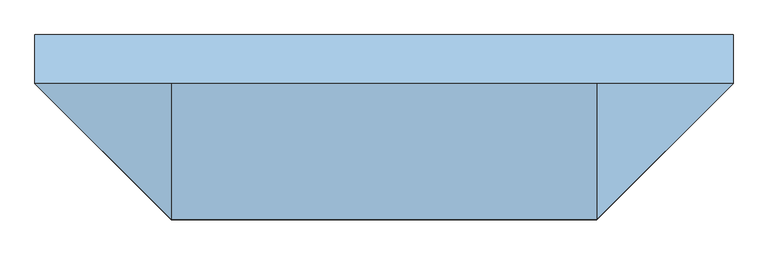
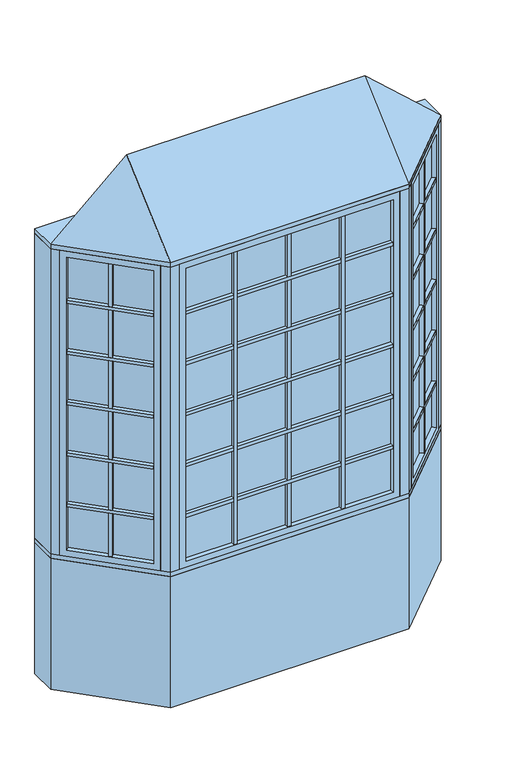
"""IFC4 building model written with IfcOpenShell, lengths in millimetres: window geometry, Pollard_Windows_Tudor Casement Bows and Bays : AML-BAY 45 AFR0518-12-500_GC."""

from ifc_helpers import new_model, si_unit, frame, origin, origin_with_axes, place, context, project, spatial, polyline, outline, extrude, faceted_brep, source, transform, mapped, element, save


def window_77bf9d07(model_context):
    return source(origin(), model_context, "Body", "SolidModel", [
        extrude(outline(polyline([(722.8614193, -437.1108753), (707.3050701, -421.5545261), (1015.116171, -113.7434252), (1030.6725202, -129.2997743), (722.8614193, -437.1108753)])), frame((0.0, 0.0, 1690.998), z_axis=(0.0, 0.0, 1.0), x_axis=(1.0, 0.0, 0.0)), (0.0, 0.0, 1.0), 18.0),
        extrude(outline(polyline([(703.7129677, -417.9624236), (688.1566185, -402.4060744), (995.9677194, -94.5949735), (1011.5240686, -110.1513227), (703.7129677, -417.9624236)])), frame((0.0, 0.0, 1690.998), z_axis=(0.0, 0.0, 1.0), x_axis=(1.0, 0.0, 0.0)), (0.0, 0.0, 1.0), 18.0),
        extrude(outline(polyline([(722.8614193, -437.1108753), (707.3050701, -421.5545261), (1015.116171, -113.7434252), (1030.6725202, -129.2997743), (722.8614193, -437.1108753)])), frame((0.0, 0.0, 1090.998), z_axis=(0.0, 0.0, 1.0), x_axis=(1.0, 0.0, 0.0)), (0.0, 0.0, 1.0), 18.0),
        extrude(outline(polyline([(703.7129677, -417.9624236), (688.1566185, -402.4060744), (995.9677194, -94.5949735), (1011.5240686, -110.1513227), (703.7129677, -417.9624236)])), frame((0.0, 0.0, 1090.998), z_axis=(0.0, 0.0, 1.0), x_axis=(1.0, 0.0, 0.0)), (0.0, 0.0, 1.0), 18.0),
        extrude(outline(polyline([(722.8614193, -437.1108753), (707.3050701, -421.5545261), (1015.116171, -113.7434252), (1030.6725202, -129.2997743), (722.8614193, -437.1108753)])), frame((0.0, 0.0, 1390.998), z_axis=(0.0, 0.0, 1.0), x_axis=(1.0, 0.0, 0.0)), (0.0, 0.0, 1.0), 18.0),
        extrude(outline(polyline([(703.7129677, -417.9624236), (688.1566185, -402.4060744), (995.9677194, -94.5949735), (1011.5240686, -110.1513227), (703.7129677, -417.9624236)])), frame((0.0, 0.0, 1390.998), z_axis=(0.0, 0.0, 1.0), x_axis=(1.0, 0.0, 0.0)), (0.0, 0.0, 1.0), 18.0),
        extrude(outline(polyline([(722.8614193, -437.1108753), (707.3050701, -421.5545261), (1015.116171, -113.7434252), (1030.6725202, -129.2997743), (722.8614193, -437.1108753)])), frame((0.0, 0.0, 1990.998), z_axis=(0.0, 0.0, 1.0), x_axis=(1.0, 0.0, 0.0)), (0.0, 0.0, 1.0), 18.0),
        extrude(outline(polyline([(703.7129677, -417.9624236), (688.1566185, -402.4060744), (995.9677194, -94.5949735), (1011.5240686, -110.1513227), (703.7129677, -417.9624236)])), frame((0.0, 0.0, 1990.998), z_axis=(0.0, 0.0, 1.0), x_axis=(1.0, 0.0, 0.0)), (0.0, 0.0, 1.0), 18.0),
        extrude(outline(polyline([(722.8614193, -437.1108753), (707.3050701, -421.5545261), (1015.116171, -113.7434252), (1030.6725202, -129.2997743), (722.8614193, -437.1108753)])), frame((0.0, 0.0, 2290.998), z_axis=(0.0, 0.0, 1.0), x_axis=(1.0, 0.0, 0.0)), (0.0, 0.0, 1.0), 18.0),
        extrude(outline(polyline([(703.7129677, -417.9624236), (688.1566185, -402.4060744), (995.9677194, -94.5949735), (1011.5240686, -110.1513227), (703.7129677, -417.9624236)])), frame((0.0, 0.0, 2290.998), z_axis=(0.0, 0.0, 1.0), x_axis=(1.0, 0.0, 0.0)), (0.0, 0.0, 1.0), 18.0),
        extrude(outline(polyline([(867.5745816, -261.2850146), (883.1309308, -276.8413638), (870.4030087, -289.5692858), (854.8466595, -274.0129366), (867.5745816, -261.2850146)])), frame((0.0, 0.0, 835.8628), z_axis=(0.0, 0.0, 1.0), x_axis=(1.0, 0.0, 0.0)), (0.0, 0.0, 1.0), 1728.2704),
        extrude(outline(polyline([(863.9824791, -257.6929121), (851.2545571, -270.4208342), (835.6982079, -254.864485), (848.42613, -242.1365629), (863.9824791, -257.6929121)])), frame((0.0, 0.0, 835.8628), z_axis=(0.0, 0.0, 1.0), x_axis=(1.0, 0.0, 0.0)), (0.0, 0.0, 1.0), 1728.2704),
        extrude(outline(polyline([(1024.0964271, -104.763169), (698.324814, -430.5347822), (694.7327115, -426.9426797), (1020.5043247, -101.1710666), (1024.0964271, -104.763169)])), frame((0.0, 0.0, 823.1628), z_axis=(0.0, 0.0, 1.0), x_axis=(1.0, 0.0, 0.0)), (0.0, 0.0, 1.0), 1753.6704),
        faceted_brep([(1015.116171, -113.7434252, 835.8628), (1033.0766833, -131.7039374, 835.8628), (1033.0766833, -131.7039374, 2564.1332), (1015.116171, -113.7434252, 2564.1332), (1020.5043247, -101.1710666, 823.1628), (1024.0964271, -104.763169, 823.1628), (1024.0964271, -104.763169, 2576.8332), (1020.5043247, -101.1710666, 2576.8332), (993.5635563, -92.1908105, 835.8628), (1011.5240686, -110.1513227, 835.8628), (1011.5240686, -110.1513227, 2564.1332), (993.5635563, -92.1908105, 2564.1332), (1058.4369265, -106.3436941, 799.998), (1018.9237996, -66.8305672, 799.998), (1018.9237996, -66.8305672, 2599.998), (1058.4369265, -106.3436941, 2599.998), (725.2655823, -439.5150383, 2564.1332), (707.3050701, -421.5545261, 2564.1332), (698.324814, -430.5347822, 2576.8332), (694.7327115, -426.9426797, 2576.8332), (703.7129677, -417.9624236, 2564.1332), (685.7524554, -400.0019114, 2564.1332), (660.3922121, -425.3621547, 2599.998), (699.9053391, -464.8752816, 2599.998), (725.2655823, -439.5150383, 835.8628), (707.3050701, -421.5545261, 835.8628), (698.324814, -430.5347822, 823.1628), (694.7327115, -426.9426797, 823.1628), (703.7129677, -417.9624236, 835.8628), (685.7524554, -400.0019114, 835.8628), (660.3922121, -425.3621547, 799.998), (699.9053391, -464.8752816, 799.998)], [[[0, 1, 2, 3]], [[4, 5, 6, 7]], [[8, 9, 10, 11]], [[12, 13, 14, 15]], [[3, 2, 16, 17]], [[7, 6, 18, 19]], [[11, 10, 20, 21]], [[15, 14, 22, 23]], [[17, 16, 24, 25]], [[19, 18, 26, 27]], [[21, 20, 28, 29]], [[23, 22, 30, 31]], [[25, 24, 1, 0]], [[5, 26, 18, 6], [3, 17, 25, 0]], [[27, 26, 5, 4]], [[7, 19, 27, 4], [9, 28, 20, 10]], [[29, 28, 9, 8]], [[13, 30, 22, 14], [11, 21, 29, 8]], [[31, 30, 13, 12]], [[15, 23, 31, 12], [1, 24, 16, 2]]]),
        extrude(outline(polyline([(309.1927, -474.8306207), (309.1927, -496.8306207), (291.1927, -496.8306207), (291.1927, -474.8306207), (309.1927, -474.8306207)])), frame((0.0, 0.0, 835.8628), z_axis=(0.0, 0.0, 1.0), x_axis=(1.0, 0.0, 0.0)), (0.0, 0.0, 1.0), 1728.2704),
        extrude(outline(polyline([(309.1927, -469.7506207), (291.1927, -469.7506207), (291.1927, -447.7506207), (309.1927, -447.7506207), (309.1927, -469.7506207)])), frame((0.0, 0.0, 835.8628), z_axis=(0.0, 0.0, 1.0), x_axis=(1.0, 0.0, 0.0)), (0.0, 0.0, 1.0), 1728.2704),
        extrude(outline(polyline([(-291.1927, -474.8306207), (-291.1927, -496.8306207), (-309.1927, -496.8306207), (-309.1927, -474.8306207), (-291.1927, -474.8306207)])), frame((0.0, 0.0, 835.8628), z_axis=(0.0, 0.0, 1.0), x_axis=(1.0, 0.0, 0.0)), (0.0, 0.0, 1.0), 1728.2704),
        extrude(outline(polyline([(-291.1927, -469.7506207), (-309.1927, -469.7506207), (-309.1927, -447.7506207), (-291.1927, -447.7506207), (-291.1927, -469.7506207)])), frame((0.0, 0.0, 835.8628), z_axis=(0.0, 0.0, 1.0), x_axis=(1.0, 0.0, 0.0)), (0.0, 0.0, 1.0), 1728.2704),
        extrude(outline(polyline([(-578.6852, -496.8306207), (-578.6852, -474.8306207), (578.6852, -474.8306207), (578.6852, -496.8306207), (-578.6852, -496.8306207)])), frame((0.0, 0.0, 1090.998), z_axis=(0.0, 0.0, 1.0), x_axis=(1.0, 0.0, 0.0)), (0.0, 0.0, 1.0), 18.0),
        extrude(outline(polyline([(-578.6852, -469.7506207), (-578.6852, -447.7506207), (578.6852, -447.7506207), (578.6852, -469.7506207), (-578.6852, -469.7506207)])), frame((0.0, 0.0, 1090.998), z_axis=(0.0, 0.0, 1.0), x_axis=(1.0, 0.0, 0.0)), (0.0, 0.0, 1.0), 18.0),
        extrude(outline(polyline([(-578.6852, -496.8306207), (-578.6852, -474.8306207), (578.6852, -474.8306207), (578.6852, -496.8306207), (-578.6852, -496.8306207)])), frame((0.0, 0.0, 1390.998), z_axis=(0.0, 0.0, 1.0), x_axis=(1.0, 0.0, 0.0)), (0.0, 0.0, 1.0), 18.0),
        extrude(outline(polyline([(-578.6852, -469.7506207), (-578.6852, -447.7506207), (578.6852, -447.7506207), (578.6852, -469.7506207), (-578.6852, -469.7506207)])), frame((0.0, 0.0, 1390.998), z_axis=(0.0, 0.0, 1.0), x_axis=(1.0, 0.0, 0.0)), (0.0, 0.0, 1.0), 18.0),
        extrude(outline(polyline([(-578.6852, -496.8306207), (-578.6852, -474.8306207), (578.6852, -474.8306207), (578.6852, -496.8306207), (-578.6852, -496.8306207)])), frame((0.0, 0.0, 1690.998), z_axis=(0.0, 0.0, 1.0), x_axis=(1.0, 0.0, 0.0)), (0.0, 0.0, 1.0), 18.0),
        extrude(outline(polyline([(-578.6852, -469.7506207), (-578.6852, -447.7506207), (578.6852, -447.7506207), (578.6852, -469.7506207), (-578.6852, -469.7506207)])), frame((0.0, 0.0, 1690.998), z_axis=(0.0, 0.0, 1.0), x_axis=(1.0, 0.0, 0.0)), (0.0, 0.0, 1.0), 18.0),
        extrude(outline(polyline([(-578.6852, -496.8306207), (-578.6852, -474.8306207), (578.6852, -474.8306207), (578.6852, -496.8306207), (-578.6852, -496.8306207)])), frame((0.0, 0.0, 1990.998), z_axis=(0.0, 0.0, 1.0), x_axis=(1.0, 0.0, 0.0)), (0.0, 0.0, 1.0), 18.0),
        extrude(outline(polyline([(-578.6852, -469.7506207), (-578.6852, -447.7506207), (578.6852, -447.7506207), (578.6852, -469.7506207), (-578.6852, -469.7506207)])), frame((0.0, 0.0, 1990.998), z_axis=(0.0, 0.0, 1.0), x_axis=(1.0, 0.0, 0.0)), (0.0, 0.0, 1.0), 18.0),
        extrude(outline(polyline([(-1030.6725202, -129.2997743), (-1015.116171, -113.7434252), (-707.3050701, -421.5545261), (-722.8614193, -437.1108753), (-1030.6725202, -129.2997743)])), frame((0.0, 0.0, 1090.998), z_axis=(0.0, 0.0, 1.0), x_axis=(1.0, 0.0, 0.0)), (0.0, 0.0, 1.0), 18.0),
        extrude(outline(polyline([(-1011.5240686, -110.1513227), (-995.9677194, -94.5949735), (-688.1566185, -402.4060744), (-703.7129677, -417.9624236), (-1011.5240686, -110.1513227)])), frame((0.0, 0.0, 1090.998), z_axis=(0.0, 0.0, 1.0), x_axis=(1.0, 0.0, 0.0)), (0.0, 0.0, 1.0), 18.0),
        extrude(outline(polyline([(-1030.6725202, -129.2997743), (-1015.116171, -113.7434252), (-707.3050701, -421.5545261), (-722.8614193, -437.1108753), (-1030.6725202, -129.2997743)])), frame((0.0, 0.0, 1390.998), z_axis=(0.0, 0.0, 1.0), x_axis=(1.0, 0.0, 0.0)), (0.0, 0.0, 1.0), 18.0),
        extrude(outline(polyline([(-1011.5240686, -110.1513227), (-995.9677194, -94.5949735), (-688.1566185, -402.4060744), (-703.7129677, -417.9624236), (-1011.5240686, -110.1513227)])), frame((0.0, 0.0, 1390.998), z_axis=(0.0, 0.0, 1.0), x_axis=(1.0, 0.0, 0.0)), (0.0, 0.0, 1.0), 18.0),
        extrude(outline(polyline([(-1030.6725202, -129.2997743), (-1015.116171, -113.7434252), (-707.3050701, -421.5545261), (-722.8614193, -437.1108753), (-1030.6725202, -129.2997743)])), frame((0.0, 0.0, 1690.998), z_axis=(0.0, 0.0, 1.0), x_axis=(1.0, 0.0, 0.0)), (0.0, 0.0, 1.0), 18.0),
        extrude(outline(polyline([(-1011.5240686, -110.1513227), (-995.9677194, -94.5949735), (-688.1566185, -402.4060744), (-703.7129677, -417.9624236), (-1011.5240686, -110.1513227)])), frame((0.0, 0.0, 1690.998), z_axis=(0.0, 0.0, 1.0), x_axis=(1.0, 0.0, 0.0)), (0.0, 0.0, 1.0), 18.0),
        extrude(outline(polyline([(-1030.6725202, -129.2997743), (-1015.116171, -113.7434252), (-707.3050701, -421.5545261), (-722.8614193, -437.1108753), (-1030.6725202, -129.2997743)])), frame((0.0, 0.0, 1990.998), z_axis=(0.0, 0.0, 1.0), x_axis=(1.0, 0.0, 0.0)), (0.0, 0.0, 1.0), 18.0),
        extrude(outline(polyline([(-1011.5240686, -110.1513227), (-995.9677194, -94.5949735), (-688.1566185, -402.4060744), (-703.7129677, -417.9624236), (-1011.5240686, -110.1513227)])), frame((0.0, 0.0, 1990.998), z_axis=(0.0, 0.0, 1.0), x_axis=(1.0, 0.0, 0.0)), (0.0, 0.0, 1.0), 18.0),
        extrude(outline(polyline([(-1030.6725202, -129.2997743), (-1015.116171, -113.7434252), (-707.3050701, -421.5545261), (-722.8614193, -437.1108753), (-1030.6725202, -129.2997743)])), frame((0.0, 0.0, 2290.998), z_axis=(0.0, 0.0, 1.0), x_axis=(1.0, 0.0, 0.0)), (0.0, 0.0, 1.0), 18.0),
        extrude(outline(polyline([(-1011.5240686, -110.1513227), (-995.9677194, -94.5949735), (-688.1566185, -402.4060744), (-703.7129677, -417.9624236), (-1011.5240686, -110.1513227)])), frame((0.0, 0.0, 2290.998), z_axis=(0.0, 0.0, 1.0), x_axis=(1.0, 0.0, 0.0)), (0.0, 0.0, 1.0), 18.0),
        extrude(outline(polyline([(-578.6852, -496.8306207), (-578.6852, -474.8306207), (578.6852, -474.8306207), (578.6852, -496.8306207), (-578.6852, -496.8306207)])), frame((0.0, 0.0, 2290.998), z_axis=(0.0, 0.0, 1.0), x_axis=(1.0, 0.0, 0.0)), (0.0, 0.0, 1.0), 18.0),
        extrude(outline(polyline([(-578.6852, -469.7506207), (-578.6852, -447.7506207), (578.6852, -447.7506207), (578.6852, -469.7506207), (-578.6852, -469.7506207)])), frame((0.0, 0.0, 2290.998), z_axis=(0.0, 0.0, 1.0), x_axis=(1.0, 0.0, 0.0)), (0.0, 0.0, 1.0), 18.0),
        extrude(outline(polyline([(-854.8466595, -274.0129366), (-870.4030087, -289.5692858), (-883.1309308, -276.8413638), (-867.5745816, -261.2850146), (-854.8466595, -274.0129366)])), frame((0.0, 0.0, 835.8628), z_axis=(0.0, 0.0, 1.0), x_axis=(1.0, 0.0, 0.0)), (0.0, 0.0, 1.0), 1728.2704),
        extrude(outline(polyline([(-851.2545571, -270.4208342), (-863.9824791, -257.6929121), (-848.42613, -242.1365629), (-835.6982079, -254.864485), (-851.2545571, -270.4208342)])), frame((0.0, 0.0, 835.8628), z_axis=(0.0, 0.0, 1.0), x_axis=(1.0, 0.0, 0.0)), (0.0, 0.0, 1.0), 1728.2704),
        extrude(outline(polyline([(9.0, -474.8306207), (9.0, -496.8306207), (-9.0, -496.8306207), (-9.0, -474.8306207), (9.0, -474.8306207)])), frame((0.0, 0.0, 835.8628), z_axis=(0.0, 0.0, 1.0), x_axis=(1.0, 0.0, 0.0)), (0.0, 0.0, 1.0), 1728.2704),
        extrude(outline(polyline([(9.0, -469.7506207), (-9.0, -469.7506207), (-9.0, -447.7506207), (9.0, -447.7506207), (9.0, -469.7506207)])), frame((0.0, 0.0, 835.8628), z_axis=(0.0, 0.0, 1.0), x_axis=(1.0, 0.0, 0.0)), (0.0, 0.0, 1.0), 1728.2704),
        extrude(outline(polyline([(-698.324814, -430.5347822), (-1024.0964271, -104.763169), (-1020.5043247, -101.1710666), (-694.7327115, -426.9426797), (-698.324814, -430.5347822)])), frame((0.0, 0.0, 823.1628), z_axis=(0.0, 0.0, 1.0), x_axis=(1.0, 0.0, 0.0)), (0.0, 0.0, 1.0), 1753.6704),
        faceted_brep([(-703.7129677, -417.9624236, 2564.1332), (-685.7524554, -400.0019114, 2564.1332), (-685.7524554, -400.0019114, 835.8628), (-703.7129677, -417.9624236, 835.8628), (-698.324814, -430.5347822, 2576.8332), (-694.7327115, -426.9426797, 2576.8332), (-694.7327115, -426.9426797, 823.1628), (-698.324814, -430.5347822, 823.1628), (-725.2655823, -439.5150383, 2564.1332), (-707.3050701, -421.5545261, 2564.1332), (-707.3050701, -421.5545261, 835.8628), (-725.2655823, -439.5150383, 835.8628), (-660.3922121, -425.3621547, 2599.998), (-699.9053391, -464.8752816, 2599.998), (-699.9053391, -464.8752816, 799.998), (-660.3922121, -425.3621547, 799.998), (-993.5635563, -92.1908105, 835.8628), (-1011.5240686, -110.1513227, 835.8628), (-1020.5043247, -101.1710666, 823.1628), (-1024.0964271, -104.763169, 823.1628), (-1015.116171, -113.7434252, 835.8628), (-1033.0766833, -131.7039374, 835.8628), (-1058.4369265, -106.3436941, 799.998), (-1018.9237996, -66.8305672, 799.998), (-993.5635563, -92.1908105, 2564.1332), (-1011.5240686, -110.1513227, 2564.1332), (-1020.5043247, -101.1710666, 2576.8332), (-1024.0964271, -104.763169, 2576.8332), (-1015.116171, -113.7434252, 2564.1332), (-1033.0766833, -131.7039374, 2564.1332), (-1058.4369265, -106.3436941, 2599.998), (-1018.9237996, -66.8305672, 2599.998)], [[[0, 1, 2, 3]], [[4, 5, 6, 7]], [[8, 9, 10, 11]], [[12, 13, 14, 15]], [[3, 2, 16, 17]], [[7, 6, 18, 19]], [[11, 10, 20, 21]], [[15, 14, 22, 23]], [[17, 16, 24, 25]], [[19, 18, 26, 27]], [[21, 20, 28, 29]], [[23, 22, 30, 31]], [[15, 23, 31, 12], [1, 24, 16, 2]], [[25, 24, 1, 0]], [[5, 26, 18, 6], [3, 17, 25, 0]], [[27, 26, 5, 4]], [[7, 19, 27, 4], [9, 28, 20, 10]], [[29, 28, 9, 8]], [[13, 30, 22, 14], [11, 21, 29, 8]], [[31, 30, 13, 12]]]),
        extrude(outline(polyline([(591.3852, -474.8306207), (-591.3852, -474.8306207), (-591.3852, -469.7506207), (591.3852, -469.7506207), (591.3852, -474.8306207)])), frame((0.0, 0.0, 823.1628), z_axis=(0.0, 0.0, 1.0), x_axis=(1.0, 0.0, 0.0)), (0.0, 0.0, 1.0), 1753.6704),
        faceted_brep([(578.6852, -474.8306207, 835.8628), (578.6852, -500.2306207, 835.8628), (578.6852, -500.2306207, 2564.1332), (578.6852, -474.8306207, 2564.1332), (591.3852, -469.7506207, 823.1628), (591.3852, -474.8306207, 823.1628), (591.3852, -474.8306207, 2576.8332), (591.3852, -469.7506207, 2576.8332), (578.6852, -444.3506207, 835.8628), (578.6852, -469.7506207, 835.8628), (578.6852, -469.7506207, 2564.1332), (578.6852, -444.3506207, 2564.1332), (614.55, -500.2306207, 799.998), (614.55, -444.3506207, 799.998), (614.55, -444.3506207, 2599.998), (614.55, -500.2306207, 2599.998), (-578.6852, -500.2306207, 2564.1332), (-578.6852, -474.8306207, 2564.1332), (-591.3852, -474.8306207, 2576.8332), (-591.3852, -469.7506207, 2576.8332), (-578.6852, -469.7506207, 2564.1332), (-578.6852, -444.3506207, 2564.1332), (-614.55, -444.3506207, 2599.998), (-614.55, -500.2306207, 2599.998), (-578.6852, -500.2306207, 835.8628), (-578.6852, -474.8306207, 835.8628), (-591.3852, -474.8306207, 823.1628), (-591.3852, -469.7506207, 823.1628), (-578.6852, -469.7506207, 835.8628), (-578.6852, -444.3506207, 835.8628), (-614.55, -444.3506207, 799.998), (-614.55, -500.2306207, 799.998)], [[[0, 1, 2, 3]], [[4, 5, 6, 7]], [[8, 9, 10, 11]], [[12, 13, 14, 15]], [[3, 2, 16, 17]], [[7, 6, 18, 19]], [[11, 10, 20, 21]], [[15, 14, 22, 23]], [[17, 16, 24, 25]], [[19, 18, 26, 27]], [[21, 20, 28, 29]], [[23, 22, 30, 31]], [[15, 23, 31, 12], [1, 24, 16, 2]], [[25, 24, 1, 0]], [[5, 26, 18, 6], [3, 17, 25, 0]], [[27, 26, 5, 4]], [[7, 19, 27, 4], [9, 28, 20, 10]], [[29, 28, 9, 8]], [[13, 30, 22, 14], [11, 21, 29, 8]], [[31, 30, 13, 12]]]),
        faceted_brep([(1090.0, -74.7806207, 2625.398), (664.55, -500.2306207, 2625.398), (-664.55, -500.2306207, 2625.398), (-1090.0, -74.7806207, 2625.398), (-664.55, -74.7806207, 3006.398), (664.55, -74.7806207, 3006.398)], [[[0, 1, 2, 3]], [[3, 2, 4]], [[2, 1, 5, 4]], [[1, 0, 5]], [[0, 3, 4, 5]]]),
        extrude(outline(polyline([(-1090.0, 77.6193793), (1090.0, 77.6193793), (1090.0, -74.7806207), (664.55, -500.2306207), (-664.55, -500.2306207), (-1090.0, -74.7806207), (-1090.0, 77.6193793)])), frame((0.0, 0.0, 2599.998), z_axis=(0.0, 0.0, 1.0), x_axis=(1.0, 0.0, 0.0)), (0.0, 0.0, 1.0), 25.4),
        extrude(outline(polyline([(-1090.0, -74.7806207), (-1090.0, 77.6193793), (-1026.8738531, 77.6193793), (-1026.8738531, -74.7806207), (-1058.4369265, -106.3436941), (-1090.0, -74.7806207)])), frame((0.0, 0.0, 799.998), z_axis=(0.0, 0.0, 1.0), x_axis=(1.0, 0.0, 0.0)), (0.0, 0.0, 1.0), 1800.0),
        extrude(outline(polyline([(1090.0, 77.6193793), (1090.0, -74.7806207), (1058.4369265, -106.3436941), (1026.8738531, -74.7806207), (1026.8738531, 77.6193793), (1090.0, 77.6193793)])), frame((0.0, 0.0, 799.998), z_axis=(0.0, 0.0, 1.0), x_axis=(1.0, 0.0, 0.0)), (0.0, 0.0, 1.0), 1800.0),
        extrude(outline(polyline([(664.55, -500.2306207), (614.55, -500.2306207), (614.55, -450.2306207), (643.8393219, -450.2306207), (664.55, -429.5199425), (699.9053391, -464.8752816), (664.55, -500.2306207)])), frame((0.0, 0.0, 799.998), z_axis=(0.0, 0.0, 1.0), x_axis=(1.0, 0.0, 0.0)), (0.0, 0.0, 1.0), 1800.0),
        extrude(outline(polyline([(-664.55, -500.2306207), (-699.9053391, -464.8752816), (-664.55, -429.5199425), (-643.8393219, -450.2306207), (-614.55, -450.2306207), (-614.55, -500.2306207), (-664.55, -500.2306207)])), frame((0.0, 0.0, 799.998), z_axis=(0.0, 0.0, 1.0), x_axis=(1.0, 0.0, 0.0)), (0.0, 0.0, 1.0), 1800.0),
        extrude(outline(polyline([(-664.55, -500.2306207), (-1090.0, -74.7806207), (-1090.0, 77.6193793), (-1026.8738531, 77.6193793), (-601.4238531, -347.8306207), (601.4238531, -347.8306207), (1026.8738531, 77.6193793), (1090.0, 77.6193793), (1090.0, -74.7806207), (664.55, -500.2306207), (-664.55, -500.2306207)])), frame((0.0, 0.0, 774.598), z_axis=(0.0, 0.0, 1.0), x_axis=(1.0, 0.0, 0.0)), (0.0, 0.0, 1.0), 25.4),
        extrude(outline(polyline([(-1090.0, -74.7806207), (-1090.0, 77.6193793), (-1026.8738531, 77.6193793), (-601.4238531, -347.8306207), (601.4238531, -347.8306207), (1026.8738531, 77.6193793), (1090.0, 77.6193793), (1090.0, -74.7806207), (664.55, -500.2306207), (-664.55, -500.2306207), (-1090.0, -74.7806207)])), origin_with_axes(), (0.0, 0.0, 1.0), 774.598),
    ])


if __name__ == "__main__":
    model = new_model("IFC4")
    model_context = context("Model", 3, world=origin())
    ifc_project = project(units=[si_unit("LENGTHUNIT", "METRE", prefix="MILLI")], contexts=[model_context])
    site = spatial("IfcSite", under=ifc_project)
    building = spatial("IfcBuilding", under=site)
    placement = place(None, origin())
    window_shape = window_77bf9d07(model_context)
    element("IfcWindow", 1, ObjectType="Pollard_Windows_Tudor Casement Bows and Bays : AML-BAY 45 AFR0518-12-500_GC", at=placement, inside=building, context=model_context, shape_type="MappedRepresentation", body=[
        mapped(window_shape, transform((0.0, 0.0, 0.0), x_axis=(1.0, 0.0, 0.0), y_axis=(0.0, 1.0, 0.0), z_axis=(0.0, 0.0, 1.0))),
    ])
    save(model, "model.ifc")
